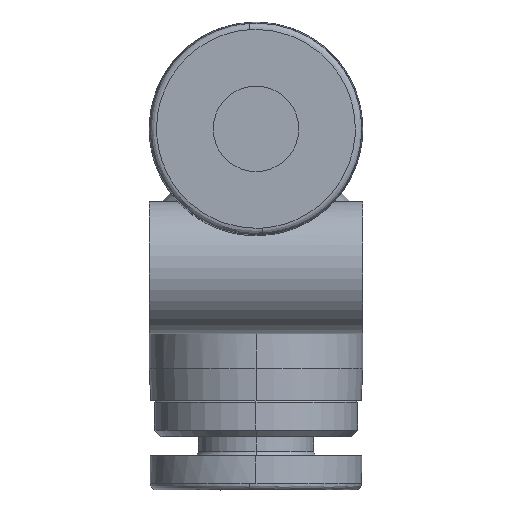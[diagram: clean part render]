
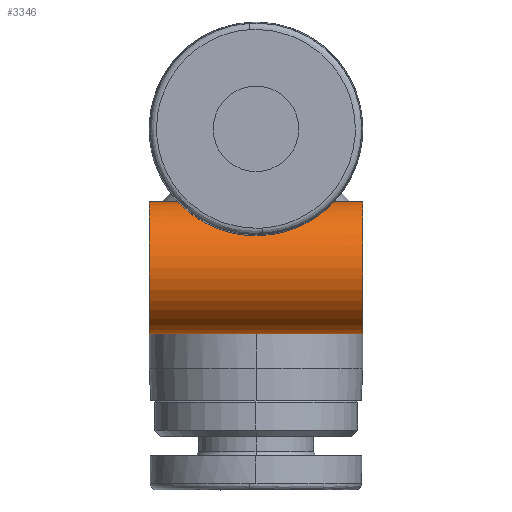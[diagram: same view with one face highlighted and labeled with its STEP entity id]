
A CAD part, left-side view. The second image highlights one B-rep face of the part: STEP entity #3346.
In plain terms, the highlighted cylindrical face has radius 3.1 mm (diameter 6.2 mm), a partial arc.
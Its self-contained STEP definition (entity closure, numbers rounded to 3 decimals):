
#21 = VERTEX_POINT ( 'NONE', #1229 ) ;
#33 = CARTESIAN_POINT ( 'NONE',  ( -9.14, 1.138, -4.874 ) ) ;
#77 = EDGE_CURVE ( 'NONE', #21, #1880, #2380, .T. ) ;
#97 = LINE ( 'NONE', #2488, #890 ) ;
#143 = ORIENTED_EDGE ( 'NONE', *, *, #2364, .T. ) ;
#166 = CARTESIAN_POINT ( 'NONE',  ( -6.958, 3.643, -3.426 ) ) ;
#183 = CYLINDRICAL_SURFACE ( 'NONE', #2234, 3.1 ) ;
#220 = CARTESIAN_POINT ( 'NONE',  ( -7.398, 3.547, -3.524 ) ) ;
#233 = CARTESIAN_POINT ( 'NONE',  ( -9.061, 1.571, -4.752 ) ) ;
#273 = CARTESIAN_POINT ( 'NONE',  ( -7.606, 3.476, -3.597 ) ) ;
#420 = DIRECTION ( 'NONE',  ( 0., 0., 1. ) ) ;
#432 = CARTESIAN_POINT ( 'NONE',  ( -6.5, 3.666, -3.4 ) ) ;
#436 = CARTESIAN_POINT ( 'NONE',  ( -6.5, -5., -3.4 ) ) ;
#478 = DIRECTION ( 'NONE',  ( 0., 1., 0. ) ) ;
#488 = CARTESIAN_POINT ( 'NONE',  ( -6.5, -5., -6.5 ) ) ;
#514 = CARTESIAN_POINT ( 'NONE',  ( -6.5, -3.666, -3.4 ) ) ;
#522 = CARTESIAN_POINT ( 'NONE',  ( -6.733, -3.666, -3.4 ) ) ;
#528 = CARTESIAN_POINT ( 'NONE',  ( -9.213, 0., -5. ) ) ;
#532 = CARTESIAN_POINT ( 'NONE',  ( -6.962, -3.642, -3.426 ) ) ;
#536 = CARTESIAN_POINT ( 'NONE',  ( -7.4, -3.547, -3.525 ) ) ;
#542 = CARTESIAN_POINT ( 'NONE',  ( -7.611, -3.474, -3.599 ) ) ;
#546 = CARTESIAN_POINT ( 'NONE',  ( -7.894, -3.331, -3.729 ) ) ;
#554 = CARTESIAN_POINT ( 'NONE',  ( -7.983, -3.278, -3.776 ) ) ;
#560 = CARTESIAN_POINT ( 'NONE',  ( -8.154, -3.16, -3.876 ) ) ;
#571 = CARTESIAN_POINT ( 'NONE',  ( -8.234, -3.094, -3.929 ) ) ;
#576 = CARTESIAN_POINT ( 'NONE',  ( -8.457, -2.883, -4.089 ) ) ;
#582 = CARTESIAN_POINT ( 'NONE',  ( -8.581, -2.725, -4.197 ) ) ;
#587 = CARTESIAN_POINT ( 'NONE',  ( -8.792, -2.37, -4.407 ) ) ;
#591 = CARTESIAN_POINT ( 'NONE',  ( -8.876, -2.179, -4.505 ) ) ;
#594 = EDGE_CURVE ( 'NONE', #3338, #1444, #97, .T. ) ;
#598 = CARTESIAN_POINT ( 'NONE',  ( -9.011, -1.778, -4.678 ) ) ;
#603 = CARTESIAN_POINT ( 'NONE',  ( -9.063, -1.564, -4.754 ) ) ;
#607 = CARTESIAN_POINT ( 'NONE',  ( -9.181, -0.911, -4.937 ) ) ;
#616 = CARTESIAN_POINT ( 'NONE',  ( -6.5, 3.666, -3.4 ) ) ;
#624 = CARTESIAN_POINT ( 'NONE',  ( -9.213, 0., -5. ) ) ;
#629 = CARTESIAN_POINT ( 'NONE',  ( -9.213, -0.462, -5. ) ) ;
#704 = CARTESIAN_POINT ( 'NONE',  ( -6.732, 3.666, -3.4 ) ) ;
#724 = EDGE_LOOP ( 'NONE', ( #3819, #143, #3175, #3735, #1453, #1235, #2141 ) ) ;
#783 = CARTESIAN_POINT ( 'NONE',  ( -8.789, 2.375, -4.405 ) ) ;
#800 = CARTESIAN_POINT ( 'NONE',  ( -8.874, 2.182, -4.504 ) ) ;
#819 = CARTESIAN_POINT ( 'NONE',  ( -8.58, 2.725, -4.197 ) ) ;
#824 = CARTESIAN_POINT ( 'NONE',  ( -8.453, 2.887, -4.086 ) ) ;
#884 = CIRCLE ( 'NONE', #3456, 3.1 ) ;
#890 = VECTOR ( 'NONE', #2413, 1000. ) ;
#1114 = CARTESIAN_POINT ( 'NONE',  ( -7.982, 3.279, -3.775 ) ) ;
#1167 = CARTESIAN_POINT ( 'NONE',  ( -7.891, 3.333, -3.727 ) ) ;
#1199 = CARTESIAN_POINT ( 'NONE',  ( -8.152, 3.161, -3.875 ) ) ;
#1229 = CARTESIAN_POINT ( 'NONE',  ( -6.5, -5., -9.6 ) ) ;
#1235 = ORIENTED_EDGE ( 'NONE', *, *, #594, .T. ) ;
#1340 = CARTESIAN_POINT ( 'NONE',  ( -6.5, -5., -3.4 ) ) ;
#1347 = VERTEX_POINT ( 'NONE', #1340 ) ;
#1361 = AXIS2_PLACEMENT_3D ( 'NONE', #3555, #3545, #3526 ) ;
#1444 = VERTEX_POINT ( 'NONE', #2210 ) ;
#1453 = ORIENTED_EDGE ( 'NONE', *, *, #1684, .F. ) ;
#1514 = CARTESIAN_POINT ( 'NONE',  ( -8.231, 3.096, -3.927 ) ) ;
#1522 = CARTESIAN_POINT ( 'NONE',  ( -9.01, 1.78, -4.677 ) ) ;
#1610 = VECTOR ( 'NONE', #1990, 1000. ) ;
#1616 = CARTESIAN_POINT ( 'NONE',  ( -6.5, 5., -9.6 ) ) ;
#1684 = EDGE_CURVE ( 'NONE', #3338, #1734, #3746, .T. ) ;
#1688 = DIRECTION ( 'NONE',  ( 0., 0., 1. ) ) ;
#1703 = EDGE_CURVE ( 'NONE', #1444, #1880, #884, .T. ) ;
#1734 = VERTEX_POINT ( 'NONE', #528 ) ;
#1765 = FACE_OUTER_BOUND ( 'NONE', #724, .T. ) ;
#1777 = DIRECTION ( 'NONE',  ( 0., -1., 0. ) ) ;
#1781 = CARTESIAN_POINT ( 'NONE',  ( -6.5, 5., -6.5 ) ) ;
#1880 = VERTEX_POINT ( 'NONE', #1616 ) ;
#1990 = DIRECTION ( 'NONE',  ( 0., 1., 0. ) ) ;
#2072 = EDGE_CURVE ( 'NONE', #1347, #3833, #3465, .T. ) ;
#2141 = ORIENTED_EDGE ( 'NONE', *, *, #1703, .T. ) ;
#2207 = CARTESIAN_POINT ( 'NONE',  ( -6.5, -5., -9.6 ) ) ;
#2210 = CARTESIAN_POINT ( 'NONE',  ( -6.5, 5., -3.4 ) ) ;
#2234 = AXIS2_PLACEMENT_3D ( 'NONE', #488, #478, #420 ) ;
#2364 = EDGE_CURVE ( 'NONE', #21, #1347, #3122, .T. ) ;
#2380 = LINE ( 'NONE', #2207, #1610 ) ;
#2413 = DIRECTION ( 'NONE',  ( 0., 1., 0. ) ) ;
#2488 = CARTESIAN_POINT ( 'NONE',  ( -6.5, -5., -3.4 ) ) ;
#2647 = DIRECTION ( 'NONE',  ( 0., 1., 0. ) ) ;
#2663 = VECTOR ( 'NONE', #2647, 1000. ) ;
#3122 = CIRCLE ( 'NONE', #1361, 3.1 ) ;
#3175 = ORIENTED_EDGE ( 'NONE', *, *, #2072, .T. ) ;
#3318 = EDGE_CURVE ( 'NONE', #1734, #3833, #3466, .T. ) ;
#3338 = VERTEX_POINT ( 'NONE', #432 ) ;
#3346 = ADVANCED_FACE ( '36', ( #1765 ), #183, .T. ) ;
#3410 = CARTESIAN_POINT ( 'NONE',  ( -6.5, -3.666, -3.4 ) ) ;
#3456 = AXIS2_PLACEMENT_3D ( 'NONE', #1781, #1777, #1688 ) ;
#3465 = LINE ( 'NONE', #436, #2663 ) ;
#3466 = B_SPLINE_CURVE_WITH_KNOTS ( 'NONE', 3,
 ( #624, #629, #607, #603, #598, #591, #587, #582, #576, #571, #560, #554, #546, #542, #536, #532, #522, #514 ),
 .UNSPECIFIED., .F., .F.,
 ( 4, 2, 2, 2, 2, 2, 2, 2, 4 ),
 ( 0.008, 0.01, 0.01, 0.011, 0.012, 0.012, 0.012, 0.013, 0.014 ),
 .UNSPECIFIED. ) ;
#3526 = DIRECTION ( 'NONE',  ( 0., 0., 1. ) ) ;
#3545 = DIRECTION ( 'NONE',  ( 0., 1., 0. ) ) ;
#3555 = CARTESIAN_POINT ( 'NONE',  ( -6.5, -5., -6.5 ) ) ;
#3735 = ORIENTED_EDGE ( 'NONE', *, *, #3318, .F. ) ;
#3746 = B_SPLINE_CURVE_WITH_KNOTS ( 'NONE', 3,
 ( #616, #704, #166, #220, #273, #1167, #1114, #1199, #1514, #824, #819, #783, #800, #1522, #233, #33, #3965, #3920, #3890, #3845 ),
 .UNSPECIFIED., .F., .F.,
 ( 4, 2, 2, 2, 2, 2, 2, 2, 2, 4 ),
 ( 0.003, 0.003, 0.004, 0.004, 0.005, 0.006, 0.006, 0.007, 0.008, 0.008 ),
 .UNSPECIFIED. ) ;
#3819 = ORIENTED_EDGE ( 'NONE', *, *, #77, .F. ) ;
#3833 = VERTEX_POINT ( 'NONE', #3410 ) ;
#3845 = CARTESIAN_POINT ( 'NONE',  ( -9.213, 0., -5. ) ) ;
#3890 = CARTESIAN_POINT ( 'NONE',  ( -9.213, 0.231, -5. ) ) ;
#3920 = CARTESIAN_POINT ( 'NONE',  ( -9.204, 0.459, -4.984 ) ) ;
#3965 = CARTESIAN_POINT ( 'NONE',  ( -9.168, 0.912, -4.921 ) ) ;
